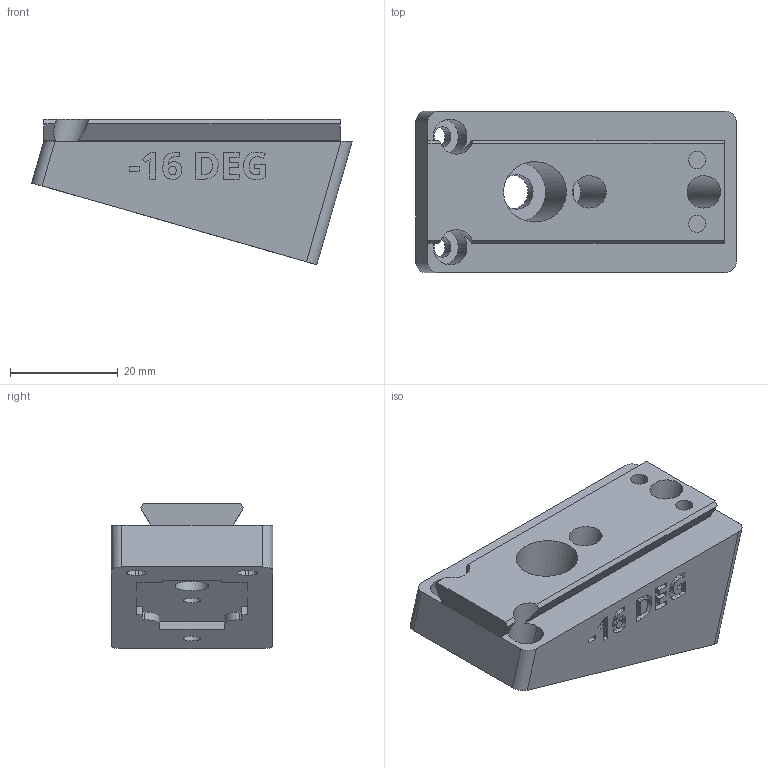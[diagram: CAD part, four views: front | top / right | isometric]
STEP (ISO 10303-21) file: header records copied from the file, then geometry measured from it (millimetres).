
FILE_DESCRIPTION(/* description */ ('STEP AP242 Edition 2','CAx-IF Rec.Pracs.---Representation and Presentation of Product Manufacturing Information (PMI)---4.0---2014-10-13','CAx-IF Rec.Pracs.---3D Tessellated Geometry---0.4---2014-09-14','2;1','CAx-IF Rec.Pracs.---User Defined Attributes---1.5---2016-08-15'),/* implementation_level */ '2;1');
FILE_NAME(/* name */ 'Camera Wedges - CAMERA MOUNTING WEDGE, NEG, -16 DEG',/* time_stamp */ '2026-08-11T00:06:32Z',/* author */ (''),/* organization */ (''),/* preprocessor_version */ 'ST-DEVELOPER v20',/* originating_system */ 'ONSHAPE BY PTC INC, 1.219',/* authorisation */ ' ');
FILE_SCHEMA (('AP242_MANAGED_MODEL_BASED_3D_ENGINEERING_MIM_LF { 1 0 10303 442 3 1 4 }'));
Length unit declared in the file: metre
Products named in the file (1): CAMERA MOUNTING WEDGE, NEG, -16 DEG
Bounding box: 59.43 x 30 x 26.98 mm (x, y, z)
Volume: 26124.9 mm3; surface area: 8728.6 mm2
Topology: 1 solids, 1 shells, 257 faces, 697 edges, 464 vertices
Faces by surface type: plane 145, bspline 70, cylinder 42
Full cylindrical faces by diameter (mm): 3.2 x4, 6 x2, 6.4 x1, 11.2 x1
Entity records: 8293 total; most frequent: CARTESIAN_POINT 2181, ORIENTED_EDGE 1378, DIRECTION 1021, EDGE_CURVE 689, VERTEX_POINT 464, LINE 453, VECTOR 453, EDGE_LOOP 297
